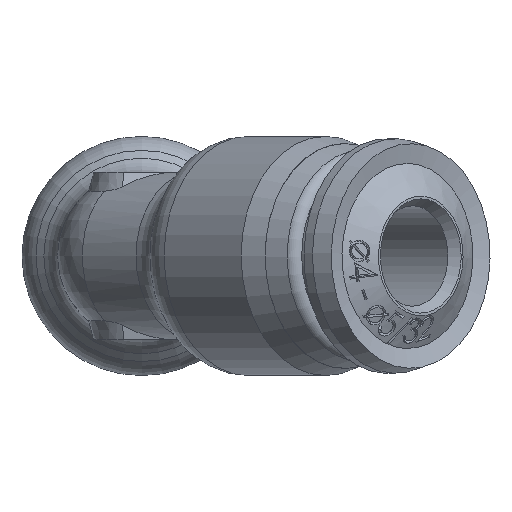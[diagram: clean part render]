
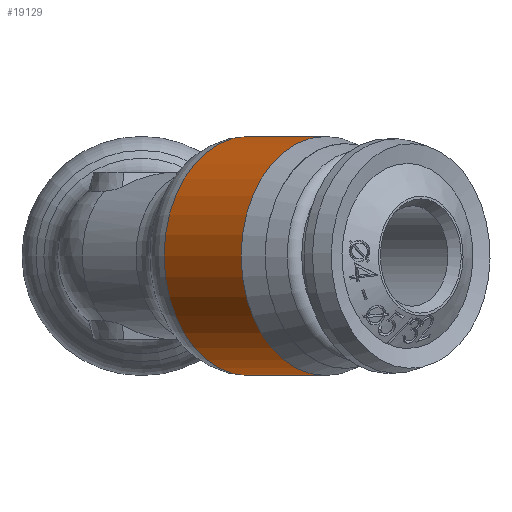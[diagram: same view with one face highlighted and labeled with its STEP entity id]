
A CAD part, left-side view. The second image highlights one B-rep face of the part: STEP entity #19129.
In plain terms, the highlighted cylindrical face has radius 5 mm (diameter 10 mm), a full revolution.
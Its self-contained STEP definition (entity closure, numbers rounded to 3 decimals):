
#1504 = FACE_OUTER_BOUND ( 'NONE', #15294, .T. ) ;
#1505 = FACE_OUTER_BOUND ( 'NONE', #14862, .T. ) ;
#1591 = VERTEX_POINT ( 'NONE', #4513 ) ;
#1592 = VERTEX_POINT ( 'NONE', #4529 ) ;
#1615 = CYLINDRICAL_SURFACE ( 'NONE', #19422, 5. ) ;
#2131 = CARTESIAN_POINT ( 'NONE',  ( 0., 0., 0. ) ) ;
#2148 = DIRECTION ( 'NONE',  ( 0.707, 0.707, 0. ) ) ;
#2155 = DIRECTION ( 'NONE',  ( -0.707, 0.707, 0. ) ) ;
#3779 = AXIS2_PLACEMENT_3D ( 'NONE', #19638, #19637, #19635 ) ;
#3780 = AXIS2_PLACEMENT_3D ( 'NONE', #19646, #19643, #19641 ) ;
#3812 = EDGE_CURVE ( 'NONE', #1592, #1592, #4834, .T. ) ;
#3813 = EDGE_CURVE ( 'NONE', #1591, #1591, #4833, .T. ) ;
#4513 = CARTESIAN_POINT ( 'NONE',  ( -8.01, -0.939, 0. ) ) ;
#4529 = CARTESIAN_POINT ( 'NONE',  ( -11.229, -4.158, 0. ) ) ;
#4833 = CIRCLE ( 'NONE', #3779, 5. ) ;
#4834 = CIRCLE ( 'NONE', #3780, 5. ) ;
#12539 = ORIENTED_EDGE ( 'NONE', *, *, #3812, .T. ) ;
#12540 = ORIENTED_EDGE ( 'NONE', *, *, #3813, .F. ) ;
#14862 = EDGE_LOOP ( 'NONE', ( #12540 ) ) ;
#15294 = EDGE_LOOP ( 'NONE', ( #12539 ) ) ;
#19129 = ADVANCED_FACE ( 'NONE', ( #1504, #1505 ), #1615, .T. ) ;
#19422 = AXIS2_PLACEMENT_3D ( 'NONE', #2131, #2148, #2155 ) ;
#19635 = DIRECTION ( 'NONE',  ( -0.707, 0.707, 0. ) ) ;
#19637 = DIRECTION ( 'NONE',  ( 0.707, 0.707, 0. ) ) ;
#19638 = CARTESIAN_POINT ( 'NONE',  ( -4.475, -4.475, 0. ) ) ;
#19641 = DIRECTION ( 'NONE',  ( -0.707, 0.707, 0. ) ) ;
#19643 = DIRECTION ( 'NONE',  ( 0.707, 0.707, 0. ) ) ;
#19646 = CARTESIAN_POINT ( 'NONE',  ( -7.694, -7.694, 0. ) ) ;
